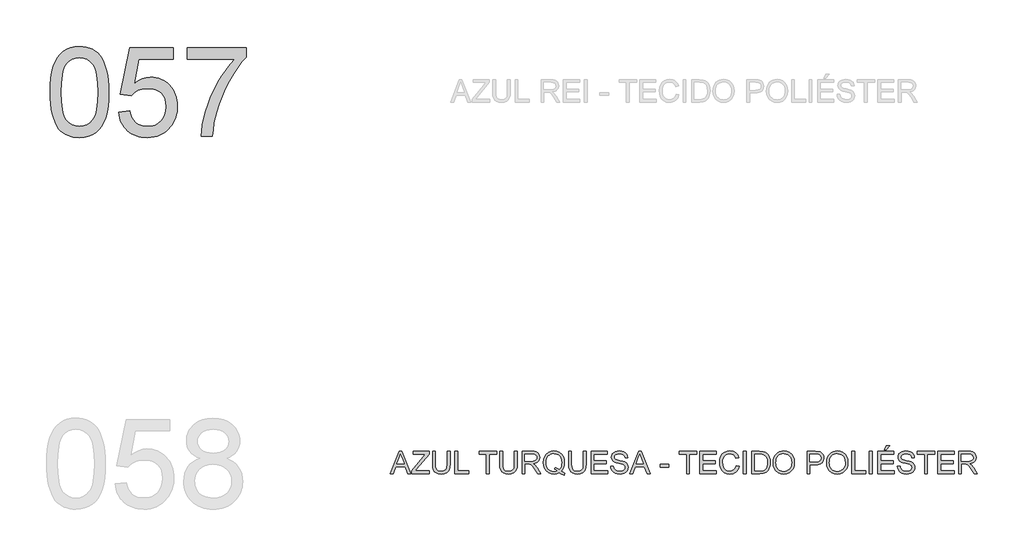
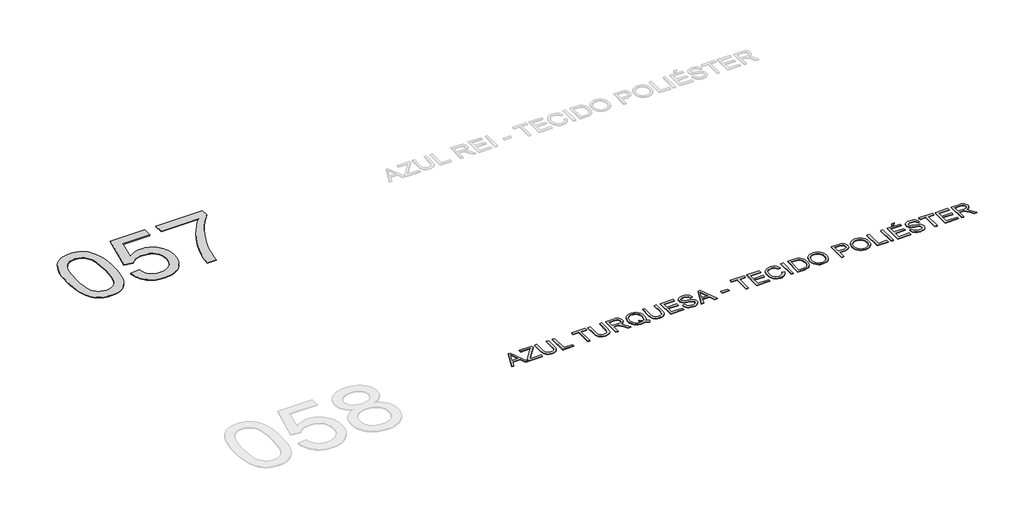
# One storey, part 15 of 67: 2 proxies.
"""IFC4 building model written with IfcOpenShell, lengths in millimetres."""

from ifc_helpers import new_model, si_unit, origin, origin_with_axes, place, context, project, spatial, polyline, outline, extrude, element, save

model = new_model("IFC4")

# Units and contexts
model_context = context("Model", 3, world=origin())
ifc_project = project(units=[si_unit("LENGTHUNIT", "METRE", prefix="MILLI")], contexts=[model_context])

# Site, building, storey
site = spatial("IfcSite", under=ifc_project)
building = spatial("IfcBuilding", under=site)
storey = spatial("IfcBuildingStorey", under=building, Name="Marelli - Linha COLAB - Planta Baixa", Elevation=0.0)

# Proxies
placement = place(None, origin())
element("IfcBuildingElementProxy", 1, Name="1200mm Arial", ObjectType="1200mm Arial", at=placement, inside=storey, context=model_context, shape_type="SweptSolid", body=[
    extrude(outline(polyline([(-25134.0424838, -49895.792664), (-25131.2741718, -49794.4319773), (-25122.9692358, -49702.8385576), (-25109.1276757, -49621.0124048), (-25089.7494916, -49548.953519), (-25064.9174569, -49486.073289), (-25034.7143451, -49431.7831035), (-24999.1401562, -49386.0829627), (-24958.1948901, -49348.9728664), (-24911.7405912, -49320.2596767), (-24859.6393036, -49299.7502555), (-24801.8910274, -49287.4446027), (-24738.4957626, -49283.3427185), (-24690.8550442, -49285.7707396), (-24645.642347, -49293.0548031), (-24602.857671, -49305.194909), (-24562.5010161, -49322.1910572), (-24525.5472697, -49343.7581391), (-24492.971319, -49369.6110463), (-24464.7731641, -49399.7497788), (-24440.9528049, -49434.1743365), (-24420.314625, -49472.7467637), (-24401.6630078, -49515.3291046), (-24370.3194618, -49612.5235278), (-24358.3449029, -49669.6831928), (-24349.7916465, -49735.9479371), (-24344.6596927, -49811.3177609), (-24342.9490414, -49895.792664), (-24345.6897623, -49996.5095573), (-24353.9119248, -50087.6431245), (-24367.6155292, -50169.1933658), (-24386.8005752, -50241.1602811), (-24411.4394718, -50304.0681023), (-24441.5046279, -50358.4410612), (-24476.9960434, -50404.2791578), (-24517.9137183, -50441.5823921), (-24564.4231995, -50470.4887199), (-24616.690034, -50491.1360968), (-24674.7142217, -50503.524523), (-24738.4957626, -50507.6539984), (-24781.170074, -50505.8605737), (-24821.4899407, -50500.4802995), (-24859.4553626, -50491.5131759), (-24895.0663398, -50478.9592028), (-24928.3228721, -50462.8183803), (-24959.2249597, -50443.0907083), (-24987.7726025, -50419.7761868), (-25013.9658006, -50392.8748159), (-25042.1087732, -50350.2786794), (-25066.4993495, -50302.0999336), (-25087.1375294, -50248.3385785), (-25104.023313, -50188.9946142), (-25117.1567002, -50124.0680406), (-25126.5376911, -50053.5588577), (-25132.1662856, -49977.4670655), (-25134.0424838, -49895.792664)]), holes=[polyline([(-24983.3580186, -49895.4983584), (-24978.9434347, -50026.4919399), (-24965.6996828, -50132.5247279), (-24955.766869, -50176.1808245), (-24943.6267631, -50213.5967226), (-24929.2793653, -50244.7724225), (-24912.7246755, -50269.7079239), (-24875.3478648, -50307.884878), (-24833.8507758, -50335.1541309), (-24788.2334084, -50351.5156826), (-24738.4957626, -50356.9695332), (-24688.7581169, -50351.4972885), (-24643.1407495, -50335.0805545), (-24601.6436604, -50307.7193311), (-24564.2668497, -50269.4136183), (-24547.7121599, -50244.418336), (-24533.3647621, -50213.2104465), (-24521.2246563, -50175.7899498), (-24511.2918424, -50132.1568459), (-24498.0480906, -50026.2528166), (-24493.6335066, -49895.4983584), (-24497.9009378, -49767.9720648), (-24510.7032312, -49663.8062779), (-24520.3049513, -49620.4835744), (-24532.0403869, -49583.0009976), (-24545.9095381, -49551.3585475), (-24561.9124049, -49525.5562241), (-24598.6638162, -49485.5122689), (-24640.6391519, -49456.9094438), (-24687.8384119, -49439.7477487), (-24740.2615962, -49434.0271837), (-24789.7417245, -49439.067167), (-24834.5865397, -49454.187117), (-24874.7960418, -49479.3870337), (-24910.3702308, -49514.666917), (-24927.4767435, -49543.2145599), (-24942.3023879, -49577.2068562), (-24954.847164, -49616.6438061), (-24965.1110716, -49661.5254095), (-24978.7962819, -49767.6225769), (-24983.3580186, -49895.4983584)])]), origin_with_axes(), (0.0, 0.0, 1.0), 10.0),
    extrude(outline(polyline([(-24211.1001343, -50168.6139517), (-24060.4156691, -50149.7783935), (-24049.15848, -50198.2192552), (-24032.7509431, -50240.2405761), (-24011.1930581, -50275.8423562), (-23984.4848253, -50305.0245955), (-23952.6814268, -50327.7505057), (-23915.838045, -50343.9832988), (-23873.9546798, -50353.7229746), (-23827.0313314, -50356.9695332), (-23769.6417401, -50352.4537817), (-23719.0211776, -50338.9065272), (-23675.1696437, -50316.3277698), (-23638.0871386, -50284.7175093), (-23608.6013967, -50245.6392444), (-23587.5401525, -50200.6564734), (-23574.903406, -50149.7691965), (-23570.6911571, -50092.9774135), (-23574.6366915, -50039.3034304), (-23586.4732947, -49991.5891356), (-23606.2009667, -49949.8345291), (-23633.8197075, -49914.039611), (-23669.4214876, -49885.3264213), (-23713.0982775, -49864.817), (-23764.8500771, -49852.5113473), (-23824.6768866, -49848.4094631), (-23862.9642052, -49850.0465379), (-23897.775039, -49854.9577626), (-23929.109388, -49863.143137), (-23956.9672521, -49874.6026611), (-24004.2400884, -49904.6954083), (-24041.5801109, -49942.5872538), (-24192.2645762, -49923.7516957), (-24060.4156691, -49302.1782766), (-23476.5133664, -49302.1782766), (-23476.5133664, -49452.8627418), (-23938.5731523, -49452.8627418), (-24003.0260778, -49784.8394543), (-23949.8487354, -49746.7268796), (-23895.3838061, -49719.503612), (-23839.6312897, -49703.1696514), (-23782.5911863, -49697.7249978), (-23745.1522955, -49699.4126565), (-23709.2079254, -49704.4756324), (-23674.7580758, -49712.9139257), (-23641.8027468, -49724.7275363), (-23610.3419384, -49739.9164642), (-23580.3756506, -49758.4807093), (-23551.9038835, -49780.4202718), (-23524.9266369, -49805.7351516), (-23500.3360248, -49833.7033803), (-23479.024161, -49863.6029895), (-23460.9910454, -49895.4339791), (-23446.2366781, -49929.1963492), (-23434.7610592, -49964.8900998), (-23426.5641885, -50002.5152308), (-23421.646066, -50042.0717424), (-23420.0066919, -50083.5596344), (-23425.9111979, -50161.6241938), (-23433.2918304, -50198.6147284), (-23443.624716, -50234.2440996), (-23456.9098545, -50268.5123075), (-23473.1472461, -50301.4193519), (-23492.3368907, -50332.965233), (-23514.4787883, -50363.1499507), (-23544.479565, -50397.0180869), (-23577.0923038, -50426.3704716), (-23612.3170049, -50451.2071048), (-23650.1536681, -50471.5279865), (-23690.6022934, -50487.3331167), (-23733.662881, -50498.6224954), (-23779.3354307, -50505.3961227), (-23827.6199425, -50507.6539984), (-23905.3809993, -50501.8506599), (-23941.4403326, -50494.5964869), (-23975.6188692, -50484.4406445), (-24007.9166091, -50471.383133), (-24038.3335523, -50455.4239522), (-24066.8696989, -50436.5631021), (-24093.5250487, -50414.8005828), (-24117.8627419, -50390.6422321), (-24139.4459187, -50364.5938875), (-24158.2745791, -50336.6555493), (-24174.348723, -50306.8272173), (-24187.6683505, -50275.1088915), (-24198.2334615, -50241.500572), (-24211.1001343, -50168.6139517)])), origin_with_axes(), (0.0, 0.0, 1.0), 10.0),
    extrude(outline(polyline([(-23288.1577848, -49452.8627418), (-23288.1577848, -49302.1782766), (-22497.0643424, -49302.1782766), (-22497.0643424, -49424.0207934), (-22553.5802139, -49490.5246611), (-22609.8201739, -49566.7222194), (-22665.7842224, -49652.6134682), (-22721.4723595, -49748.1984076), (-22773.8679526, -49849.3383651), (-22819.9543696, -49951.8946683), (-22859.7316103, -50055.8673172), (-22893.1996748, -50161.2563118), (-22913.1388789, -50237.7941609), (-22929.1049575, -50317.9004653), (-22941.0979106, -50401.5752251), (-22949.1177381, -50488.8184403), (-23099.8022033, -50488.8184403), (-23095.0657226, -50414.8189769), (-23083.5050309, -50333.4986619), (-23065.1201282, -50244.8574952), (-23039.9110145, -50148.8954767), (-23008.1719953, -50050.1651463), (-22970.1973764, -49953.2190435), (-22925.9871576, -49858.0571684), (-22875.541339, -49764.679521), (-22821.1315919, -49675.8268221), (-22765.0295877, -49594.2397926), (-22707.2353262, -49519.9184325), (-22647.7488076, -49452.8627418), (-23288.1577848, -49452.8627418)])), origin_with_axes(), (0.0, 0.0, 1.0), 10.0),
])
element("IfcBuildingElementProxy", 2, Name="300mm Arial", ObjectType="300mm Arial", at=placement, inside=storey, context=model_context, shape_type="SweptSolid", body=[
    extrude(outline(polyline([(-20555.6877131, -55030.5663201), (-20435.3903007, -54729.1973896), (-20403.3109907, -54729.1973896), (-20283.0135783, -55030.5663201), (-20322.8184102, -55030.5663201), (-20357.3257413, -54936.3885293), (-20481.4491265, -54936.3885293), (-20515.8828812, -55030.5663201), (-20555.6877131, -55030.5663201)]), holes=[polyline([(-20467.6167635, -54898.717413), (-20371.0845279, -54898.717413), (-20398.2342192, -54824.6259792), (-20419.3506457, -54766.8685059), (-20438.1126275, -54818.1512561), (-20467.6167635, -54898.717413)])]), origin_with_axes(), (0.0, 0.0, 1.0), 10.0),
    extrude(outline(polyline([(-20266.3117357, -55030.5663201), (-20266.3117357, -54991.4972522), (-20112.1691797, -54802.7737887), (-20082.8857729, -54766.8685059), (-20247.4761776, -54766.8685059), (-20247.4761776, -54729.1973896), (-20035.5761483, -54729.1973896), (-20035.5761483, -54766.8685059), (-20204.2868313, -54973.397458), (-20220.1793335, -54992.8952038), (-20030.8672588, -54992.8952038), (-20030.8672588, -55030.5663201), (-20266.3117357, -55030.5663201)])), origin_with_axes(), (0.0, 0.0, 1.0), 10.0),
    extrude(outline(polyline([(-19790.7138923, -54729.1973896), (-19753.042776, -54729.1973896), (-19753.042776, -54903.0584205), (-19755.5995559, -54943.7737604), (-19763.2698955, -54975.1265034), (-19777.5988992, -54999.3147446), (-19800.1316714, -55018.5365788), (-19830.9233944, -55031.0905519), (-19870.0292505, -55035.2752096), (-19908.279781, -55031.6331779), (-19938.8599718, -55020.7070826), (-19961.7790201, -55002.8740029), (-19977.0461229, -54978.5110178), (-19985.6269704, -54945.8338995), (-19988.487253, -54903.0584205), (-19988.487253, -54729.1973896), (-19950.8161366, -54729.1973896), (-19950.8161366, -54901.7340454), (-19948.9583326, -54935.588386), (-19943.3849203, -54959.1604248), (-19933.2865596, -54975.4851883), (-19917.8539099, -54987.597703), (-19897.7307647, -54995.1024957), (-19873.5609177, -54997.6040933), (-19835.2460079, -54992.6560805), (-19820.9032086, -54986.4710644), (-19809.7701797, -54977.812042), (-19801.433054, -54965.6351479), (-19795.4779642, -54948.8965171), (-19790.7138923, -54901.7340454), (-19790.7138923, -54729.1973896)])), origin_with_axes(), (0.0, 0.0, 1.0), 10.0),
    extrude(outline(polyline([(-19687.1183225, -55030.5663201), (-19687.1183225, -54729.1973896), (-19649.4472062, -54729.1973896), (-19649.4472062, -54992.8952038), (-19498.762741, -54992.8952038), (-19498.762741, -55030.5663201), (-19687.1183225, -55030.5663201)])), origin_with_axes(), (0.0, 0.0, 1.0), 10.0),
    extrude(outline(polyline([(-19263.3182641, -55030.5663201), (-19263.3182641, -54766.8685059), (-19362.2049444, -54766.8685059), (-19362.2049444, -54729.1973896), (-19126.7604675, -54729.1973896), (-19126.7604675, -54766.8685059), (-19225.6471478, -54766.8685059), (-19225.6471478, -55030.5663201), (-19263.3182641, -55030.5663201)])), origin_with_axes(), (0.0, 0.0, 1.0), 10.0),
    extrude(outline(polyline([(-18886.607101, -54729.1973896), (-18848.9359847, -54729.1973896), (-18848.9359847, -54903.0584205), (-18851.4927646, -54943.7737604), (-18859.1631042, -54975.1265034), (-18873.4921079, -54999.3147446), (-18896.0248801, -55018.5365788), (-18926.8166031, -55031.0905519), (-18965.9224592, -55035.2752096), (-19004.1729896, -55031.6331779), (-19034.7531805, -55020.7070826), (-19057.6722288, -55002.8740029), (-19072.9393316, -54978.5110178), (-19081.5201791, -54945.8338995), (-19084.3804616, -54903.0584205), (-19084.3804616, -54729.1973896), (-19046.7093453, -54729.1973896), (-19046.7093453, -54901.7340454), (-19044.8515412, -54935.588386), (-19039.278129, -54959.1604248), (-19029.1797682, -54975.4851883), (-19013.7471185, -54987.597703), (-18993.6239734, -54995.1024957), (-18969.4541263, -54997.6040933), (-18931.1392165, -54992.6560805), (-18916.7964172, -54986.4710644), (-18905.6633883, -54977.812042), (-18897.3262626, -54965.6351479), (-18891.3711728, -54948.8965171), (-18886.607101, -54901.7340454), (-18886.607101, -54729.1973896)])), origin_with_axes(), (0.0, 0.0, 1.0), 10.0),
    extrude(outline(polyline([(-18783.0115312, -55030.5663201), (-18783.0115312, -54729.1973896), (-18653.1491869, -54729.1973896), (-18618.2463826, -54731.2299376), (-18592.8533279, -54737.3275817), (-18574.2936812, -54748.5847708), (-18559.8911011, -54766.0959537), (-18550.648066, -54787.8101885), (-18547.5670542, -54811.6765329), (-18552.6714169, -54841.3646099), (-18567.984505, -54865.9759154), (-18579.5842841, -54876.0052983), (-18593.9661709, -54884.0205273), (-18631.0762671, -54894.0085235), (-18609.665535, -54910.1217548), (-18579.1313294, -54948.8965171), (-18528.8786489, -55030.5663201), (-18572.6566063, -55030.5663201), (-18611.872827, -54968.0999573), (-18640.1997406, -54926.750021), (-18660.1021566, -54907.2154871), (-18678.0180097, -54900.0417882), (-18699.8702002, -54898.717413), (-18745.3404149, -54898.717413), (-18745.3404149, -55030.5663201), (-18783.0115312, -55030.5663201)]), holes=[polyline([(-18745.3404149, -54861.0462967), (-18661.0218616, -54861.0462967), (-18636.8060292, -54859.7127245), (-18618.0164563, -54855.7120078), (-18603.8713936, -54848.7774322), (-18593.5890918, -54838.6422832), (-18587.3259009, -54826.3826157), (-18585.2381706, -54813.0744845), (-18589.2204931, -54794.6987789), (-18601.1674609, -54779.8915286), (-18621.7228674, -54770.1242616), (-18651.5305061, -54766.8685059), (-18745.3404149, -54766.8685059), (-18745.3404149, -54861.0462967)])]), origin_with_axes(), (0.0, 0.0, 1.0), 10.0),
    extrude(outline(polyline([(-18255.2480209, -54994.4403081), (-18230.9126269, -55013.036743), (-18208.5270075, -55025.8574305), (-18218.6805506, -55053.4485802), (-18249.748185, -55039.0460001), (-18280.7054549, -55018.205485), (-18315.562274, -55031.0077785), (-18353.913972, -55035.2752096), (-18392.449611, -55030.3547879), (-18427.2696418, -55015.5935229), (-18456.433487, -54991.9203165), (-18478.000569, -54960.2640708), (-18491.3270942, -54922.3630282), (-18495.7692693, -54879.9554312), (-18491.3362913, -54837.511046), (-18478.0373572, -54799.0581805), (-18456.5530486, -54766.9512794), (-18427.5639474, -54743.5447874), (-18392.8726753, -54729.2525719), (-18354.281854, -54724.4885001), (-18315.38753, -54729.3629365), (-18280.5215139, -54743.9862458), (-18251.578398, -54767.3835407), (-18230.4527744, -54798.5799339), (-18217.5401164, -54835.9199564), (-18213.235897, -54877.7481393), (-18215.8478592, -54912.5313819), (-18223.6837457, -54943.5990164), (-18236.7987388, -54970.9142546), (-18255.2480209, -54994.4403081)]), holes=[polyline([(-18343.5396997, -54944.3347804), (-18311.8650599, -54956.3093393), (-18286.2972613, -54972.9559996), (-18270.8140278, -54955.4816049), (-18259.7545753, -54934.1076609), (-18253.1189038, -54908.8341679), (-18250.9070133, -54879.6611256), (-18254.0340103, -54846.5057608), (-18263.4150012, -54817.8201623), (-18278.8200597, -54794.3308969), (-18300.0192597, -54776.7645316), (-18325.5778613, -54765.8108452), (-18354.0611248, -54762.1596164), (-18375.5454333, -54764.0059242), (-18395.1167554, -54769.5448474), (-18412.7750912, -54778.7763863), (-18428.5204406, -54791.7005406), (-18441.4606898, -54808.2897193), (-18450.7037249, -54828.5163313), (-18456.249546, -54852.3803764), (-18458.098153, -54879.8818548), (-18456.2702394, -54906.6659634), (-18450.7864984, -54930.1437324), (-18441.64693, -54950.3151621), (-18428.8515344, -54967.1802523), (-18413.2142503, -54980.4906827), (-18395.5490168, -54989.998133), (-18375.8558337, -54995.7026032), (-18354.1347012, -54997.6040933), (-18333.2206098, -54995.6727128), (-18313.5941053, -54989.8785714), (-18332.889516, -54979.853787), (-18353.2517844, -54973.1767288), (-18343.5396997, -54944.3347804)])]), origin_with_axes(), (0.0, 0.0, 1.0), 10.0),
    extrude(outline(polyline([(-17958.955862, -54729.1973896), (-17921.2847457, -54729.1973896), (-17921.2847457, -54903.0584205), (-17923.8415255, -54943.7737604), (-17931.5118651, -54975.1265034), (-17945.8408688, -54999.3147446), (-17968.373641, -55018.5365788), (-17999.165364, -55031.0905519), (-18038.2712201, -55035.2752096), (-18076.5217506, -55031.6331779), (-18107.1019414, -55020.7070826), (-18130.0209897, -55002.8740029), (-18145.2880925, -54978.5110178), (-18153.8689401, -54945.8338995), (-18156.7292226, -54903.0584205), (-18156.7292226, -54729.1973896), (-18119.0581063, -54729.1973896), (-18119.0581063, -54901.7340454), (-18117.2003022, -54935.588386), (-18111.62689, -54959.1604248), (-18101.5285292, -54975.4851883), (-18086.0958795, -54987.597703), (-18065.9727344, -54995.1024957), (-18041.8028873, -54997.6040933), (-18003.4879775, -54992.6560805), (-17989.1451782, -54986.4710644), (-17978.0121493, -54977.812042), (-17969.6750236, -54965.6351479), (-17963.7199338, -54948.8965171), (-17958.955862, -54901.7340454), (-17958.955862, -54729.1973896)])), origin_with_axes(), (0.0, 0.0, 1.0), 10.0),
    extrude(outline(polyline([(-17855.3602921, -55030.5663201), (-17855.3602921, -54729.1973896), (-17638.7513734, -54729.1973896), (-17638.7513734, -54766.8685059), (-17817.6891758, -54766.8685059), (-17817.6891758, -54856.3374072), (-17648.1691524, -54856.3374072), (-17648.1691524, -54894.0085235), (-17817.6891758, -54894.0085235), (-17817.6891758, -54992.8952038), (-17634.0424838, -54992.8952038), (-17634.0424838, -55030.5663201), (-17855.3602921, -55030.5663201)])), origin_with_axes(), (0.0, 0.0, 1.0), 10.0),
    extrude(outline(polyline([(-17591.662478, -54926.9707502), (-17553.9913617, -54926.9707502), (-17549.6687482, -54947.8756446), (-17541.8512558, -54964.6786547), (-17529.6559677, -54978.0143771), (-17512.199967, -54988.517408), (-17490.8628113, -54995.332422), (-17467.024058, -54997.6040933), (-17446.0363902, -54995.884245), (-17427.6606845, -54990.7247), (-17412.7706608, -54982.5577197), (-17402.2400387, -54971.8155654), (-17395.9768477, -54959.4823216), (-17393.8891174, -54946.5420724), (-17395.4526158, -54933.932917), (-17400.1431113, -54923.0344129), (-17409.671255, -54913.7361954), (-17425.7476982, -54905.9279001), (-17480.5989036, -54891.5437141), (-17516.6053539, -54882.0247675), (-17539.6439639, -54872.9656733), (-17558.3967486, -54860.2921386), (-17571.6864856, -54844.9330653), (-17579.6051456, -54827.2195472), (-17582.2446989, -54807.4826782), (-17578.9797462, -54785.4189555), (-17569.1848881, -54764.845155), (-17553.1176419, -54747.4075484), (-17531.0355252, -54734.7524077), (-17504.5296274, -54727.054477), (-17475.1910383, -54724.4885001), (-17443.4060339, -54727.1740386), (-17415.5941551, -54735.2306543), (-17392.7486832, -54748.4928003), (-17375.8628996, -54766.7949295), (-17365.1759276, -54788.9966079), (-17360.9268906, -54813.9574013), (-17398.5980069, -54813.9574013), (-17405.5141884, -54791.4798114), (-17419.9351626, -54775.2562154), (-17442.4679348, -54765.4337661), (-17473.7195103, -54762.1596164), (-17505.7068498, -54765.3969779), (-17527.6510108, -54775.1090626), (-17540.3429396, -54789.4012781), (-17544.5735826, -54806.3790322), (-17541.5753443, -54820.8551887), (-17532.5806296, -54832.4986539), (-17511.3170502, -54842.9097143), (-17471.07076, -54853.541504), (-17429.5368827, -54863.6398648), (-17404.4105424, -54872.4506385), (-17382.935431, -54886.1174547), (-17367.9534367, -54902.9848441), (-17359.15186, -54922.868866), (-17356.2180011, -54945.5855792), (-17359.5933184, -54968.8081301), (-17369.7192703, -54990.6511236), (-17386.1819896, -55009.4498935), (-17408.567609, -55023.539774), (-17435.487374, -55032.3413507), (-17465.55253, -55035.2752096), (-17502.4602912, -55032.1114244), (-17532.8381469, -55022.620069), (-17557.0355852, -55006.764355), (-17575.4020938, -54984.5074943), (-17587.1927117, -54957.3945912), (-17591.662478, -54926.9707502)])), origin_with_axes(), (0.0, 0.0, 1.0), 10.0),
    extrude(outline(polyline([(-17334.8072689, -55030.5663201), (-17214.5098565, -54729.1973896), (-17182.4305465, -54729.1973896), (-17062.1331341, -55030.5663201), (-17101.937966, -55030.5663201), (-17136.4452971, -54936.3885293), (-17260.5686823, -54936.3885293), (-17295.0024371, -55030.5663201), (-17334.8072689, -55030.5663201)]), holes=[polyline([(-17246.7363193, -54898.717413), (-17150.2040838, -54898.717413), (-17177.353775, -54824.6259792), (-17198.4702015, -54766.8685059), (-17217.2321833, -54818.1512561), (-17246.7363193, -54898.717413)])]), origin_with_axes(), (0.0, 0.0, 1.0), 10.0),
    extrude(outline(polyline([(-16927.7090531, -54941.0974188), (-16927.7090531, -54903.4263025), (-16809.9868146, -54903.4263025), (-16809.9868146, -54941.0974188), (-16927.7090531, -54941.0974188)])), origin_with_axes(), (0.0, 0.0, 1.0), 10.0),
    extrude(outline(polyline([(-16569.8334482, -55030.5663201), (-16569.8334482, -54766.8685059), (-16668.7201285, -54766.8685059), (-16668.7201285, -54729.1973896), (-16433.2756516, -54729.1973896), (-16433.2756516, -54766.8685059), (-16532.1623319, -54766.8685059), (-16532.1623319, -55030.5663201), (-16569.8334482, -55030.5663201)])), origin_with_axes(), (0.0, 0.0, 1.0), 10.0),
    extrude(outline(polyline([(-16390.8956457, -55030.5663201), (-16390.8956457, -54729.1973896), (-16174.286727, -54729.1973896), (-16174.286727, -54766.8685059), (-16353.2245294, -54766.8685059), (-16353.2245294, -54856.3374072), (-16183.704506, -54856.3374072), (-16183.704506, -54894.0085235), (-16353.2245294, -54894.0085235), (-16353.2245294, -54992.8952038), (-16169.5778374, -54992.8952038), (-16169.5778374, -55030.5663201), (-16390.8956457, -55030.5663201)])), origin_with_axes(), (0.0, 0.0, 1.0), 10.0),
    extrude(outline(polyline([(-15901.1711337, -54923.4390831), (-15863.5000174, -54933.1511677), (-15870.9542264, -54956.5783531), (-15880.8824417, -54977.0486868), (-15893.2846635, -54994.5621691), (-15908.1608916, -55009.1187997), (-15925.1754339, -55020.5622291), (-15943.992598, -55028.7361071), (-15964.6123838, -55033.640434), (-15987.0347914, -55035.2752096), (-16030.7299754, -55030.3271968), (-16065.4304446, -55015.4831583), (-16092.0283128, -54991.2581289), (-16111.415694, -54958.1671434), (-16123.2522972, -54919.2636224), (-16127.1978316, -54877.6009865), (-16122.7372624, -54833.6574821), (-16109.3555548, -54795.7104543), (-16087.7516846, -54764.9647166), (-16058.6246277, -54742.6250824), (-16024.0805083, -54729.0226457), (-15986.225451, -54724.4885001), (-15944.9215, -54730.3562179), (-15926.9527638, -54737.6908652), (-15910.7728538, -54747.9593714), (-15896.6484845, -54760.8904235), (-15884.8463702, -54776.2127086), (-15868.208907, -54814.0309777), (-15905.8800233, -54823.0072984), (-15918.9398341, -54795.5357104), (-15936.7821109, -54776.6909552), (-15959.6275828, -54765.7924511), (-15987.696979, -54762.1596164), (-16020.0522005, -54766.1879242), (-16046.6316746, -54778.2728478), (-16066.800805, -54797.1451941), (-16079.9249952, -54821.5357704), (-16087.1262853, -54849.1085259), (-16089.5267153, -54877.5274101), (-16086.6848269, -54912.3290468), (-16078.1591616, -54942.421794), (-16063.6278228, -54966.6560205), (-16042.7689137, -54983.8820949), (-16017.7621351, -54994.1735937), (-15990.7871878, -54997.6040933), (-15959.3424742, -54992.931992), (-15933.1400791, -54978.9156879), (-15913.3572248, -54955.702334), (-15901.1711337, -54923.4390831)])), origin_with_axes(), (0.0, 0.0, 1.0), 10.0),
    extrude(outline(polyline([(-15806.993343, -55030.5663201), (-15806.993343, -54729.1973896), (-15769.3222267, -54729.1973896), (-15769.3222267, -55030.5663201), (-15806.993343, -55030.5663201)])), origin_with_axes(), (0.0, 0.0, 1.0), 10.0),
    extrude(outline(polyline([(-15693.9799941, -55030.5663201), (-15693.9799941, -54729.1973896), (-15590.0165422, -54729.1973896), (-15536.2321945, -54733.5383972), (-15512.2095002, -54741.9077126), (-15491.9392023, -54755.0962821), (-15471.0986873, -54778.0521186), (-15456.2546488, -54806.5997614), (-15447.3702986, -54840.1873876), (-15444.4088485, -54878.2631741), (-15446.4138054, -54910.6091985), (-15452.428676, -54939.0740679), (-15461.5889377, -54963.3082943), (-15473.0300678, -54982.9623899), (-15486.2002432, -54998.477813), (-15500.547641, -55010.2960221), (-15517.0195573, -55019.0608107), (-15536.5632883, -55025.4159721), (-15585.0133471, -55030.5663201), (-15693.9799941, -55030.5663201)]), holes=[polyline([(-15656.3088778, -54992.8952038), (-15589.6486602, -54992.8952038), (-15562.0759047, -54991.5340404), (-15541.1618133, -54987.4505502), (-15525.3796757, -54980.8838566), (-15513.2027816, -54972.0730828), (-15500.1153796, -54955.7667134), (-15490.2837333, -54934.6594839), (-15484.130907, -54908.6594239), (-15482.0799648, -54877.6745629), (-15486.0990756, -54836.6189322), (-15498.156408, -54806.3054558), (-15515.9710936, -54785.4833349), (-15537.2622641, -54772.9017706), (-15558.9305136, -54768.3768221), (-15590.6787298, -54766.8685059), (-15656.3088778, -54766.8685059), (-15656.3088778, -54992.8952038)])]), origin_with_axes(), (0.0, 0.0, 1.0), 10.0),
    extrude(outline(polyline([(-15406.7377322, -54883.8549804), (-15404.2269376, -54848.5061192), (-15396.6945538, -54817.213157), (-15384.1405807, -54789.9760937), (-15366.5650183, -54766.7949295), (-15345.020929, -54748.2858666), (-15320.5613749, -54735.0651074), (-15293.1863559, -54727.1326519), (-15262.8958721, -54724.4885001), (-15223.3669517, -54729.454907), (-15187.9215215, -54744.3541278), (-15158.4909619, -54768.1376988), (-15137.0066534, -54799.7571563), (-15123.8732661, -54837.68579), (-15119.4954704, -54880.3968896), (-15124.1031924, -54923.6782064), (-15137.9263583, -54962.140269), (-15160.2016132, -54993.8149087), (-15190.1656017, -55016.733957), (-15225.3075293, -55030.6398965), (-15263.1166013, -55035.2752096), (-15303.252527, -55030.1524528), (-15338.9002923, -55014.7841825), (-15368.2572755, -54990.5591531), (-15389.5208548, -54958.8661192), (-15402.4335129, -54922.3998164), (-15406.7377322, -54883.8549804)]), holes=[polyline([(-15369.0666159, -54884.2228624), (-15367.18352, -54909.1974513), (-15361.5342321, -54931.3669401), (-15352.1187523, -54950.7313286), (-15338.9370805, -54967.2906169), (-15322.9135204, -54980.5527628), (-15304.9723753, -54990.0257242), (-15285.1136454, -54995.709501), (-15263.3373305, -54997.6040933), (-15241.1885351, -54995.6911069), (-15221.0952804, -54989.9521478), (-15203.0575663, -54980.3872159), (-15187.0753929, -54966.9963113), (-15173.9902902, -54950.0875351), (-15164.6437882, -54929.9689885), (-15159.0358871, -54906.6406715), (-15157.1665867, -54880.102584), (-15160.3671601, -54846.7540812), (-15169.9688801, -54817.9305269), (-15185.7234266, -54794.358488), (-15207.382479, -54776.7645316), (-15233.5112977, -54765.8108452), (-15262.6751429, -54762.1596164), (-15283.6950004, -54763.9185522), (-15303.1973447, -54769.1953595), (-15321.1821757, -54777.9900385), (-15337.6494935, -54790.302589), (-15351.3944846, -54806.7262208), (-15361.2123353, -54827.8541437), (-15367.1030458, -54853.6863575), (-15369.0666159, -54884.2228624)])]), origin_with_axes(), (0.0, 0.0, 1.0), 10.0),
    extrude(outline(polyline([(-14949.975447, -55030.5663201), (-14949.975447, -54729.1973896), (-14838.2864733, -54729.1973896), (-14793.2577171, -54732.0668692), (-14773.1805572, -54737.4287493), (-14756.6534585, -54746.1567496), (-14743.3453274, -54758.6463433), (-14732.9250699, -54775.2930036), (-14726.1928293, -54794.9287051), (-14723.9487492, -54816.3854225), (-14725.4639631, -54834.8852883), (-14730.009605, -54851.9044291), (-14737.5856749, -54867.4428449), (-14748.1921727, -54881.5005356), (-14762.7534019, -54893.1531978), (-14782.1936661, -54901.476528), (-14806.5129652, -54906.470526), (-14835.7112993, -54908.1351921), (-14912.3043307, -54908.1351921), (-14912.3043307, -55030.5663201), (-14949.975447, -55030.5663201)]), holes=[polyline([(-14912.3043307, -54870.4640758), (-14833.5040073, -54870.4640758), (-14800.1003222, -54867.005985), (-14778.0274025, -54856.6317127), (-14765.7217497, -54839.9850525), (-14761.6198655, -54817.7097977), (-14764.0386896, -54800.7872259), (-14771.295162, -54786.5134045), (-14782.4879717, -54775.7712502), (-14796.7158078, -54769.4436799), (-14834.3869241, -54766.8685059), (-14912.3043307, -54766.8685059), (-14912.3043307, -54870.4640758)])]), origin_with_axes(), (0.0, 0.0, 1.0), 10.0),
    extrude(outline(polyline([(-14686.2776329, -54883.8549804), (-14683.7668383, -54848.5061192), (-14676.2344544, -54817.213157), (-14663.6804813, -54789.9760937), (-14646.104919, -54766.7949295), (-14624.5608297, -54748.2858666), (-14600.1012755, -54735.0651074), (-14572.7262565, -54727.1326519), (-14542.4357728, -54724.4885001), (-14502.9068524, -54729.454907), (-14467.4614221, -54744.3541278), (-14438.0308625, -54768.1376988), (-14416.546554, -54799.7571563), (-14403.4131668, -54837.68579), (-14399.035371, -54880.3968896), (-14403.643093, -54923.6782064), (-14417.466259, -54962.140269), (-14439.7415138, -54993.8149087), (-14469.7055023, -55016.733957), (-14504.8474299, -55030.6398965), (-14542.656502, -55035.2752096), (-14582.7924276, -55030.1524528), (-14618.440193, -55014.7841825), (-14647.7971762, -54990.5591531), (-14669.0607555, -54958.8661192), (-14681.9734135, -54922.3998164), (-14686.2776329, -54883.8549804)]), holes=[polyline([(-14648.6065166, -54884.2228624), (-14646.7234206, -54909.1974513), (-14641.0741327, -54931.3669401), (-14631.6586529, -54950.7313286), (-14618.4769812, -54967.2906169), (-14602.453421, -54980.5527628), (-14584.512276, -54990.0257242), (-14564.653546, -54995.709501), (-14542.8772311, -54997.6040933), (-14520.7284358, -54995.6911069), (-14500.6351811, -54989.9521478), (-14482.597467, -54980.3872159), (-14466.6152935, -54966.9963113), (-14453.5301908, -54950.0875351), (-14444.1836889, -54929.9689885), (-14438.5757877, -54906.6406715), (-14436.7064873, -54880.102584), (-14439.9070607, -54846.7540812), (-14449.5087808, -54817.9305269), (-14465.2633272, -54794.358488), (-14486.9223797, -54776.7645316), (-14513.0511984, -54765.8108452), (-14542.2150436, -54762.1596164), (-14563.2349011, -54763.9185522), (-14582.7372453, -54769.1953595), (-14600.7220764, -54777.9900385), (-14617.1893942, -54790.302589), (-14630.9343852, -54806.7262208), (-14640.752236, -54827.8541437), (-14646.6429464, -54853.6863575), (-14648.6065166, -54884.2228624)])]), origin_with_axes(), (0.0, 0.0, 1.0), 10.0),
    extrude(outline(polyline([(-14347.2375861, -55030.5663201), (-14347.2375861, -54729.1973896), (-14309.5664698, -54729.1973896), (-14309.5664698, -54992.8952038), (-14158.8820046, -54992.8952038), (-14158.8820046, -55030.5663201), (-14347.2375861, -55030.5663201)])), origin_with_axes(), (0.0, 0.0, 1.0), 10.0),
    extrude(outline(polyline([(-14111.7931092, -55030.5663201), (-14111.7931092, -54729.1973896), (-14074.1219929, -54729.1973896), (-14074.1219929, -55030.5663201), (-14111.7931092, -55030.5663201)])), origin_with_axes(), (0.0, 0.0, 1.0), 10.0),
    extrude(outline(polyline([(-13998.7797603, -55030.5663201), (-13998.7797603, -54729.1973896), (-13782.1708415, -54729.1973896), (-13782.1708415, -54766.8685059), (-13961.108644, -54766.8685059), (-13961.108644, -54856.3374072), (-13791.5886206, -54856.3374072), (-13791.5886206, -54894.0085235), (-13961.108644, -54894.0085235), (-13961.108644, -54992.8952038), (-13777.461952, -54992.8952038), (-13777.461952, -55030.5663201), (-13998.7797603, -55030.5663201)])), origin_with_axes(), (0.0, 0.0, 1.0), 10.0),
    extrude(outline(polyline([(-13914.0197486, -54710.3618315), (-13885.7664114, -54653.855157), (-13838.677516, -54653.855157), (-13885.7664114, -54710.3618315), (-13914.0197486, -54710.3618315)])), origin_with_axes(), (0.0, 0.0, 1.0), 10.0),
    extrude(outline(polyline([(-13735.0819461, -54926.9707502), (-13697.4108298, -54926.9707502), (-13693.0882164, -54947.8756446), (-13685.270724, -54964.6786547), (-13673.0754359, -54978.0143771), (-13655.6194352, -54988.517408), (-13634.2822795, -54995.332422), (-13610.4435262, -54997.6040933), (-13589.4558583, -54995.884245), (-13571.0801527, -54990.7247), (-13556.1901289, -54982.5577197), (-13545.6595068, -54971.8155654), (-13539.3963159, -54959.4823216), (-13537.3085855, -54946.5420724), (-13538.872084, -54933.932917), (-13543.5625795, -54923.0344129), (-13553.0907231, -54913.7361954), (-13569.1671663, -54905.9279001), (-13624.0183718, -54891.5437141), (-13660.0248221, -54882.0247675), (-13683.063432, -54872.9656733), (-13701.8162167, -54860.2921386), (-13715.1059538, -54844.9330653), (-13723.0246137, -54827.2195472), (-13725.6641671, -54807.4826782), (-13722.3992144, -54785.4189555), (-13712.6043562, -54764.845155), (-13696.5371101, -54747.4075484), (-13674.4549933, -54734.7524077), (-13647.9490956, -54727.054477), (-13618.6105065, -54724.4885001), (-13586.8255021, -54727.1740386), (-13559.0136232, -54735.2306543), (-13536.1681513, -54748.4928003), (-13519.2823678, -54766.7949295), (-13508.5953958, -54788.9966079), (-13504.3463588, -54813.9574013), (-13542.0174751, -54813.9574013), (-13548.9336566, -54791.4798114), (-13563.3546308, -54775.2562154), (-13585.887403, -54765.4337661), (-13617.1389785, -54762.1596164), (-13649.126318, -54765.3969779), (-13671.070479, -54775.1090626), (-13683.7624078, -54789.4012781), (-13687.9930508, -54806.3790322), (-13684.9948125, -54820.8551887), (-13676.0000977, -54832.4986539), (-13654.7365184, -54842.9097143), (-13614.4902281, -54853.541504), (-13572.9563509, -54863.6398648), (-13547.8300106, -54872.4506385), (-13526.3548991, -54886.1174547), (-13511.3729049, -54902.9848441), (-13502.5713281, -54922.868866), (-13499.6374692, -54945.5855792), (-13503.0127865, -54968.8081301), (-13513.1387384, -54990.6511236), (-13529.6014577, -55009.4498935), (-13551.9870771, -55023.539774), (-13578.9068421, -55032.3413507), (-13608.9719982, -55035.2752096), (-13645.8797594, -55032.1114244), (-13676.2576151, -55022.620069), (-13700.4550533, -55006.764355), (-13718.821562, -54984.5074943), (-13730.6121799, -54957.3945912), (-13735.0819461, -54926.9707502)])), origin_with_axes(), (0.0, 0.0, 1.0), 10.0),
    extrude(outline(polyline([(-13367.7885622, -55030.5663201), (-13367.7885622, -54766.8685059), (-13466.6752425, -54766.8685059), (-13466.6752425, -54729.1973896), (-13231.2307655, -54729.1973896), (-13231.2307655, -54766.8685059), (-13330.1174458, -54766.8685059), (-13330.1174458, -55030.5663201), (-13367.7885622, -55030.5663201)])), origin_with_axes(), (0.0, 0.0, 1.0), 10.0),
    extrude(outline(polyline([(-13188.8507597, -55030.5663201), (-13188.8507597, -54729.1973896), (-12972.2418409, -54729.1973896), (-12972.2418409, -54766.8685059), (-13151.1796434, -54766.8685059), (-13151.1796434, -54856.3374072), (-12981.65962, -54856.3374072), (-12981.65962, -54894.0085235), (-13151.1796434, -54894.0085235), (-13151.1796434, -54992.8952038), (-12967.5329514, -54992.8952038), (-12967.5329514, -55030.5663201), (-13188.8507597, -55030.5663201)])), origin_with_axes(), (0.0, 0.0, 1.0), 10.0),
    extrude(outline(polyline([(-12911.0262769, -55030.5663201), (-12911.0262769, -54729.1973896), (-12781.1639326, -54729.1973896), (-12746.2611284, -54731.2299376), (-12720.8680736, -54737.3275817), (-12702.308427, -54748.5847708), (-12687.9058469, -54766.0959537), (-12678.6628117, -54787.8101885), (-12675.5818, -54811.6765329), (-12680.6861627, -54841.3646099), (-12695.9992508, -54865.9759154), (-12707.5990299, -54876.0052983), (-12721.9809167, -54884.0205273), (-12759.0910129, -54894.0085235), (-12737.6802808, -54910.1217548), (-12707.1460752, -54948.8965171), (-12656.8933947, -55030.5663201), (-12700.6713521, -55030.5663201), (-12739.8875728, -54968.0999573), (-12768.2144864, -54926.750021), (-12788.1169024, -54907.2154871), (-12806.0327555, -54900.0417882), (-12827.884946, -54898.717413), (-12873.3551606, -54898.717413), (-12873.3551606, -55030.5663201), (-12911.0262769, -55030.5663201)]), holes=[polyline([(-12873.3551606, -54861.0462967), (-12789.0366073, -54861.0462967), (-12764.820775, -54859.7127245), (-12746.0312021, -54855.7120078), (-12731.8861394, -54848.7774322), (-12721.6038376, -54838.6422832), (-12715.3406467, -54826.3826157), (-12713.2529163, -54813.0744845), (-12717.2352389, -54794.6987789), (-12729.1822067, -54779.8915286), (-12749.7376132, -54770.1242616), (-12779.5452519, -54766.8685059), (-12873.3551606, -54766.8685059), (-12873.3551606, -54861.0462967)])]), origin_with_axes(), (0.0, 0.0, 1.0), 10.0),
])

save(model, "model.ifc")
